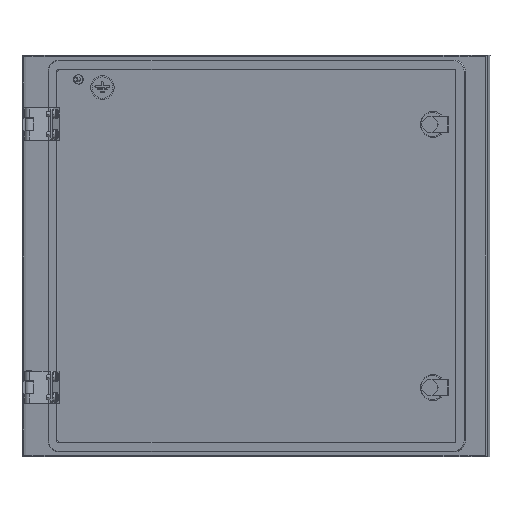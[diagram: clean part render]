
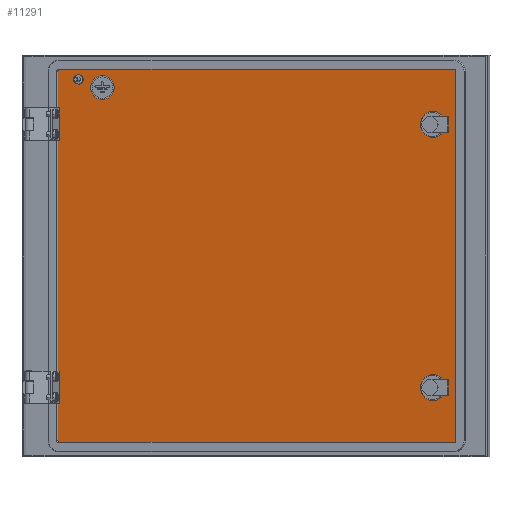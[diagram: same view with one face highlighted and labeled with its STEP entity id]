
A CAD part, left-side view. The second image highlights one B-rep face of the part: STEP entity #11291.
In plain terms, the highlighted planar face has unit normal (-0.966, 0.259, 0).
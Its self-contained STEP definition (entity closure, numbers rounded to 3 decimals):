
#34 = CIRCLE ( 'NONE', #4060, 16. ) ;
#207 = EDGE_LOOP ( 'NONE', ( #20048, #16133, #3854, #6528, #1994, #9356, #3376, #9255 ) ) ;
#277 = CARTESIAN_POINT ( 'NONE',  ( -154.038, -561.072, -203. ) ) ;
#300 = CARTESIAN_POINT ( 'NONE',  ( -146.539, -533.058, 187.5 ) ) ;
#319 = ORIENTED_EDGE ( 'NONE', *, *, #19371, .F. ) ;
#406 = CARTESIAN_POINT ( 'NONE',  ( -153.521, -559.14, -203. ) ) ;
#589 = ORIENTED_EDGE ( 'NONE', *, *, #4380, .F. ) ;
#613 = DIRECTION ( 'NONE',  ( 0., 0., -1. ) ) ;
#971 = CARTESIAN_POINT ( 'NONE',  ( -22.422, -69.382, 25. ) ) ;
#1371 = EDGE_CURVE ( 'NONE', #6132, #15812, #14761, .T. ) ;
#1410 = DIRECTION ( 'NONE',  ( 0.259, 0.966, 0. ) ) ;
#1572 = CARTESIAN_POINT ( 'NONE',  ( -22.422, -69.382, 253. ) ) ;
#1574 = CARTESIAN_POINT ( 'NONE',  ( -37.161, -124.444, 233. ) ) ;
#1958 = CARTESIAN_POINT ( 'NONE',  ( -30.067, -97.942, 242.334 ) ) ;
#1994 = ORIENTED_EDGE ( 'NONE', *, *, #1371, .F. ) ;
#2429 = CARTESIAN_POINT ( 'NONE',  ( -22.94, -71.314, -205. ) ) ;
#2458 = DIRECTION ( 'NONE',  ( 0.259, 0.966, 0. ) ) ;
#2665 = VERTEX_POINT ( 'NONE', #1958 ) ;
#2796 = DIRECTION ( 'NONE',  ( -0.259, -0.966, 0. ) ) ;
#2923 = DIRECTION ( 'NONE',  ( -0.966, 0.259, 0. ) ) ;
#3039 = FACE_BOUND ( 'NONE', #14618, .T. ) ;
#3074 = CIRCLE ( 'NONE', #9957, 15. ) ;
#3376 = ORIENTED_EDGE ( 'NONE', *, *, #10544, .F. ) ;
#3509 = VERTEX_POINT ( 'NONE', #11815 ) ;
#3538 = ORIENTED_EDGE ( 'NONE', *, *, #4790, .F. ) ;
#3587 = VECTOR ( 'NONE', #8503, 1000. ) ;
#3679 = CARTESIAN_POINT ( 'NONE',  ( -28.741, -92.987, 243.666 ) ) ;
#3751 = DIRECTION ( 'NONE',  ( 0., 0., -1. ) ) ;
#3854 = ORIENTED_EDGE ( 'NONE', *, *, #12225, .T. ) ;
#4060 = AXIS2_PLACEMENT_3D ( 'NONE', #6173, #17302, #20754 ) ;
#4211 = CARTESIAN_POINT ( 'NONE',  ( -153.521, -559.14, 255. ) ) ;
#4212 = VECTOR ( 'NONE', #2796, 1000. ) ;
#4223 = CARTESIAN_POINT ( 'NONE',  ( -22.94, -71.314, 253. ) ) ;
#4309 = DIRECTION ( 'NONE',  ( -0.966, 0.259, 0. ) ) ;
#4380 = EDGE_CURVE ( 'NONE', #3509, #6525, #3074, .T. ) ;
#4474 = VECTOR ( 'NONE', #6099, 1000. ) ;
#4605 = FACE_BOUND ( 'NONE', #19849, .T. ) ;
#4790 = EDGE_CURVE ( 'NONE', #6200, #20736, #7946, .T. ) ;
#5354 = LINE ( 'NONE', #2429, #3587 ) ;
#5567 = CIRCLE ( 'NONE', #16977, 2. ) ;
#5984 = VERTEX_POINT ( 'NONE', #17819 ) ;
#6026 = CARTESIAN_POINT ( 'NONE',  ( -22.94, -71.314, 255. ) ) ;
#6074 = AXIS2_PLACEMENT_3D ( 'NONE', #11567, #6855, #8536 ) ;
#6099 = DIRECTION ( 'NONE',  ( 0., 0., 1. ) ) ;
#6132 = VERTEX_POINT ( 'NONE', #16874 ) ;
#6173 = CARTESIAN_POINT ( 'NONE',  ( -146.539, -533.058, -137.5 ) ) ;
#6200 = VERTEX_POINT ( 'NONE', #10667 ) ;
#6277 = FACE_BOUND ( 'NONE', #18722, .T. ) ;
#6525 = VERTEX_POINT ( 'NONE', #17545 ) ;
#6528 = ORIENTED_EDGE ( 'NONE', *, *, #11577, .T. ) ;
#6785 = VERTEX_POINT ( 'NONE', #3679 ) ;
#6792 = DIRECTION ( 'NONE',  ( -0.966, 0.259, 0. ) ) ;
#6855 = DIRECTION ( 'NONE',  ( -0.966, 0.259, 0. ) ) ;
#6945 = ORIENTED_EDGE ( 'NONE', *, *, #18525, .F. ) ;
#7036 = CARTESIAN_POINT ( 'NONE',  ( -142.402, -517.602, 187.5 ) ) ;
#7317 = CARTESIAN_POINT ( 'NONE',  ( -22.422, -69.382, -203. ) ) ;
#7345 = EDGE_CURVE ( 'NONE', #16672, #12834, #11679, .T. ) ;
#7435 = CIRCLE ( 'NONE', #8779, 15. ) ;
#7540 = ORIENTED_EDGE ( 'NONE', *, *, #16808, .F. ) ;
#7946 = CIRCLE ( 'NONE', #19700, 16. ) ;
#7955 = CARTESIAN_POINT ( 'NONE',  ( -153.521, -559.14, 253. ) ) ;
#8503 = DIRECTION ( 'NONE',  ( -0.259, -0.966, 0. ) ) ;
#8536 = DIRECTION ( 'NONE',  ( 0.259, 0.966, 0. ) ) ;
#8779 = AXIS2_PLACEMENT_3D ( 'NONE', #1574, #11420, #17530 ) ;
#8844 = CIRCLE ( 'NONE', #20596, 2. ) ;
#8866 = CARTESIAN_POINT ( 'NONE',  ( -150.676, -548.514, 187.5 ) ) ;
#9255 = ORIENTED_EDGE ( 'NONE', *, *, #14416, .F. ) ;
#9356 = ORIENTED_EDGE ( 'NONE', *, *, #17923, .F. ) ;
#9418 = CIRCLE ( 'NONE', #6074, 2.65 ) ;
#9590 = AXIS2_PLACEMENT_3D ( 'NONE', #14243, #12476, #19298 ) ;
#9786 = CIRCLE ( 'NONE', #13144, 2. ) ;
#9937 = DIRECTION ( 'NONE',  ( -0.966, 0.259, 0. ) ) ;
#9957 = AXIS2_PLACEMENT_3D ( 'NONE', #17228, #4309, #20275 ) ;
#10447 = VERTEX_POINT ( 'NONE', #13576 ) ;
#10539 = LINE ( 'NONE', #6026, #4212 ) ;
#10544 = EDGE_CURVE ( 'NONE', #10447, #18851, #10539, .T. ) ;
#10667 = CARTESIAN_POINT ( 'NONE',  ( -142.402, -517.602, -137.5 ) ) ;
#10787 = AXIS2_PLACEMENT_3D ( 'NONE', #17524, #17322, #20079 ) ;
#11202 = FACE_BOUND ( 'NONE', #19605, .T. ) ;
#11227 = ORIENTED_EDGE ( 'NONE', *, *, #11574, .F. ) ;
#11291 = ADVANCED_FACE ( 'NONE', ( #20667, #11202, #6277, #4605, #3039 ), #12668, .F. ) ;
#11420 = DIRECTION ( 'NONE',  ( -0.966, 0.259, 0. ) ) ;
#11567 = CARTESIAN_POINT ( 'NONE',  ( -29.404, -95.464, 243. ) ) ;
#11574 = EDGE_CURVE ( 'NONE', #18781, #15041, #19317, .T. ) ;
#11577 = EDGE_CURVE ( 'NONE', #5984, #15812, #5567, .T. ) ;
#11679 = CIRCLE ( 'NONE', #14027, 2. ) ;
#11815 = CARTESIAN_POINT ( 'NONE',  ( -41.04, -138.934, 233. ) ) ;
#12225 = EDGE_CURVE ( 'NONE', #12834, #5984, #5354, .T. ) ;
#12337 = CARTESIAN_POINT ( 'NONE',  ( -22.94, -71.314, -205. ) ) ;
#12476 = DIRECTION ( 'NONE',  ( 0.966, -0.259, 0. ) ) ;
#12488 = CIRCLE ( 'NONE', #15846, 2.65 ) ;
#12668 = PLANE ( 'NONE',  #9590 ) ;
#12834 = VERTEX_POINT ( 'NONE', #12337 ) ;
#12995 = DIRECTION ( 'NONE',  ( 0.966, -0.259, 0. ) ) ;
#13144 = AXIS2_PLACEMENT_3D ( 'NONE', #7955, #12995, #14353 ) ;
#13576 = CARTESIAN_POINT ( 'NONE',  ( -22.94, -71.314, 255. ) ) ;
#14027 = AXIS2_PLACEMENT_3D ( 'NONE', #15917, #2923, #17299 ) ;
#14243 = CARTESIAN_POINT ( 'NONE',  ( -105.426, -379.466, 741.5 ) ) ;
#14353 = DIRECTION ( 'NONE',  ( 0., 0., 1. ) ) ;
#14416 = EDGE_CURVE ( 'NONE', #17921, #10447, #8844, .T. ) ;
#14618 = EDGE_LOOP ( 'NONE', ( #319, #589 ) ) ;
#14761 = LINE ( 'NONE', #14963, #19580 ) ;
#14762 = DIRECTION ( 'NONE',  ( 0.259, 0.966, 0. ) ) ;
#14963 = CARTESIAN_POINT ( 'NONE',  ( -154.038, -561.072, 253. ) ) ;
#15041 = VERTEX_POINT ( 'NONE', #8866 ) ;
#15328 = LINE ( 'NONE', #971, #4474 ) ;
#15534 = EDGE_CURVE ( 'NONE', #2665, #6785, #9418, .T. ) ;
#15775 = DIRECTION ( 'NONE',  ( -0.966, 0.259, 0. ) ) ;
#15812 = VERTEX_POINT ( 'NONE', #277 ) ;
#15846 = AXIS2_PLACEMENT_3D ( 'NONE', #17260, #15775, #1410 ) ;
#15917 = CARTESIAN_POINT ( 'NONE',  ( -22.94, -71.314, -203. ) ) ;
#16036 = ORIENTED_EDGE ( 'NONE', *, *, #16368, .F. ) ;
#16133 = ORIENTED_EDGE ( 'NONE', *, *, #7345, .T. ) ;
#16368 = EDGE_CURVE ( 'NONE', #15041, #18781, #17821, .T. ) ;
#16672 = VERTEX_POINT ( 'NONE', #7317 ) ;
#16808 = EDGE_CURVE ( 'NONE', #20736, #6200, #34, .T. ) ;
#16874 = CARTESIAN_POINT ( 'NONE',  ( -154.038, -561.072, 253. ) ) ;
#16923 = DIRECTION ( 'NONE',  ( 0.966, -0.259, 0. ) ) ;
#16977 = AXIS2_PLACEMENT_3D ( 'NONE', #406, #6792, #3751 ) ;
#17228 = CARTESIAN_POINT ( 'NONE',  ( -37.161, -124.444, 233. ) ) ;
#17260 = CARTESIAN_POINT ( 'NONE',  ( -29.404, -95.464, 243. ) ) ;
#17299 = DIRECTION ( 'NONE',  ( 0.259, 0.966, 0. ) ) ;
#17302 = DIRECTION ( 'NONE',  ( -0.966, 0.259, 0. ) ) ;
#17322 = DIRECTION ( 'NONE',  ( -0.966, 0.259, 0. ) ) ;
#17480 = DIRECTION ( 'NONE',  ( -0.966, 0.259, 0. ) ) ;
#17524 = CARTESIAN_POINT ( 'NONE',  ( -146.539, -533.058, 187.5 ) ) ;
#17530 = DIRECTION ( 'NONE',  ( 0.259, 0.966, 0. ) ) ;
#17545 = CARTESIAN_POINT ( 'NONE',  ( -33.283, -109.954, 233. ) ) ;
#17819 = CARTESIAN_POINT ( 'NONE',  ( -153.521, -559.14, -205. ) ) ;
#17821 = CIRCLE ( 'NONE', #10787, 16. ) ;
#17921 = VERTEX_POINT ( 'NONE', #1572 ) ;
#17923 = EDGE_CURVE ( 'NONE', #18851, #6132, #9786, .T. ) ;
#18525 = EDGE_CURVE ( 'NONE', #6785, #2665, #12488, .T. ) ;
#18722 = EDGE_LOOP ( 'NONE', ( #11227, #16036 ) ) ;
#18781 = VERTEX_POINT ( 'NONE', #7036 ) ;
#18851 = VERTEX_POINT ( 'NONE', #4211 ) ;
#18992 = AXIS2_PLACEMENT_3D ( 'NONE', #300, #9937, #14762 ) ;
#19167 = CARTESIAN_POINT ( 'NONE',  ( -146.539, -533.058, -137.5 ) ) ;
#19274 = EDGE_CURVE ( 'NONE', #16672, #17921, #15328, .T. ) ;
#19298 = DIRECTION ( 'NONE',  ( 0., 0., -1. ) ) ;
#19317 = CIRCLE ( 'NONE', #18992, 16. ) ;
#19362 = DIRECTION ( 'NONE',  ( 0.259, 0.966, 0. ) ) ;
#19371 = EDGE_CURVE ( 'NONE', #6525, #3509, #7435, .T. ) ;
#19545 = ORIENTED_EDGE ( 'NONE', *, *, #15534, .F. ) ;
#19580 = VECTOR ( 'NONE', #613, 1000. ) ;
#19605 = EDGE_LOOP ( 'NONE', ( #3538, #7540 ) ) ;
#19700 = AXIS2_PLACEMENT_3D ( 'NONE', #19167, #17480, #19362 ) ;
#19849 = EDGE_LOOP ( 'NONE', ( #19545, #6945 ) ) ;
#20048 = ORIENTED_EDGE ( 'NONE', *, *, #19274, .F. ) ;
#20079 = DIRECTION ( 'NONE',  ( 0.259, 0.966, 0. ) ) ;
#20275 = DIRECTION ( 'NONE',  ( 0.259, 0.966, 0. ) ) ;
#20596 = AXIS2_PLACEMENT_3D ( 'NONE', #4223, #16923, #2458 ) ;
#20661 = CARTESIAN_POINT ( 'NONE',  ( -150.676, -548.514, -137.5 ) ) ;
#20667 = FACE_OUTER_BOUND ( 'NONE', #207, .T. ) ;
#20736 = VERTEX_POINT ( 'NONE', #20661 ) ;
#20754 = DIRECTION ( 'NONE',  ( 0.259, 0.966, 0. ) ) ;
